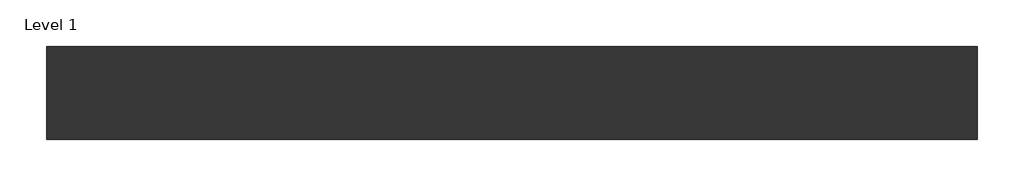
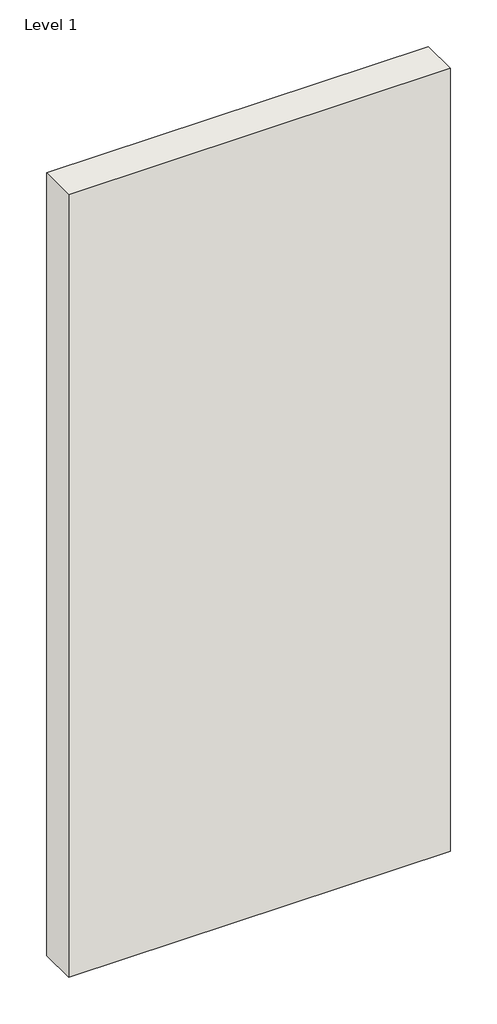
# One storey: 1 wall.
"""IFC4 building model written with IfcOpenShell, lengths in millimetres."""

from ifc_helpers import new_model, si_unit, origin, origin_with_axes, place, context, project, spatial, polyline, outline, extrude, element, save

model = new_model("IFC4")

# Units and contexts
model_context = context("Model", 3, world=origin())
ifc_project = project(units=[si_unit("LENGTHUNIT", "METRE", prefix="MILLI")], contexts=[model_context])

# Site, building, storey
site = spatial("IfcSite", under=ifc_project)
building = spatial("IfcBuilding", under=site)
storey = spatial("IfcBuildingStorey", under=building, Name="Level 1", Elevation=0.0)

# Wall
placement = place(None, origin())
element("IfcWall", 1, ObjectType="Tabique Simple – Placo® 120(70) 2xBA13 + 70LM + 2xBA13 c/400 - 53 dBA", at=placement, inside=storey, context=model_context, shape_type="SweptSolid", body=[
    extrude(outline(polyline([(-27296.4711674, -80055.3970389), (-28496.4711674, -80055.3970389), (-28496.4711674, -79935.3970389), (-27296.4711674, -79935.3970389), (-27296.4711674, -80055.3970389)])), origin_with_axes(), (0.0, 0.0, 1.0), 2600.0),
])

save(model, "model.ifc")
